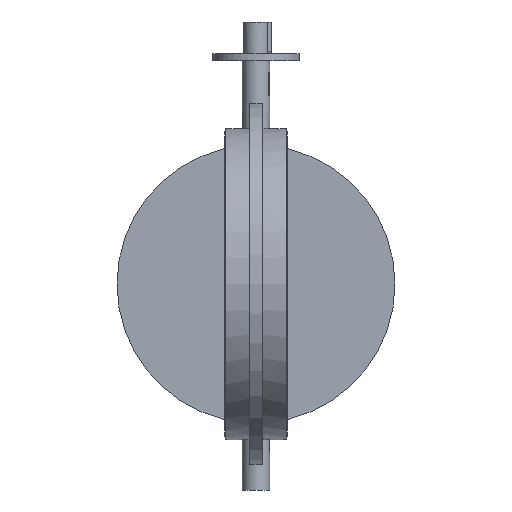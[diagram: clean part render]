
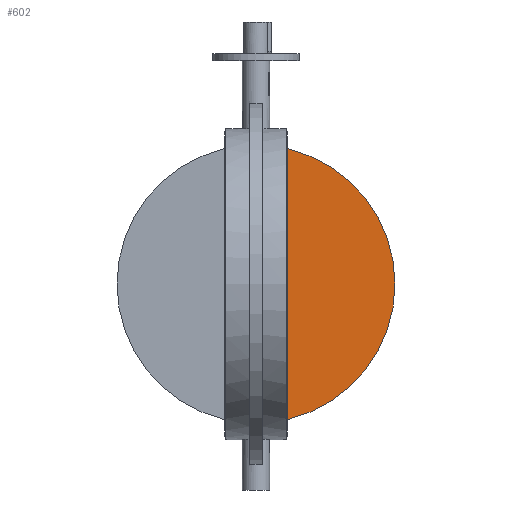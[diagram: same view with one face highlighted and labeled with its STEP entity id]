
A CAD part, front view. The second image highlights one B-rep face of the part: STEP entity #602.
In plain terms, the highlighted planar face has unit normal (0, -1, 0).
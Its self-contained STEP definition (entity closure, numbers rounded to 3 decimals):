
#602=ADVANCED_FACE('',(#1528),#1530,.T.);
#1528=FACE_BOUND('',#1529,.T.);
#1529=EDGE_LOOP('',(#2028,#2029));
#1530=PLANE('',#1531);
#1531=AXIS2_PLACEMENT_3D('',#1532,#1533,#1534);
#1532=CARTESIAN_POINT('',(0.,-10.,0.));
#1533=DIRECTION('',(0.,-1.,0.));
#1534=DIRECTION('',(0.,0.,1.));
#2028=ORIENTED_EDGE('',*,*,#2264,.T.);
#2029=ORIENTED_EDGE('',*,*,#2296,.T.);
#2264=EDGE_CURVE('',#2556,#2553,#2557,.T.);
#2296=EDGE_CURVE('',#2553,#2556,#2618,.T.);
#2553=VERTEX_POINT('',#3909);
#2556=VERTEX_POINT('',#3951);
#2557=LINE('',#3952,#3953);
#2618=CIRCLE('',#4206,482.5);
#3909=CARTESIAN_POINT('',(36.142,-10.,-481.144));
#3951=CARTESIAN_POINT('',(36.142,-10.,481.144));
#3952=CARTESIAN_POINT('',(36.142,-10.,481.144));
#3953=VECTOR('',#3954,1.);
#3954=DIRECTION('',(0.,0.,-1.));
#4206=AXIS2_PLACEMENT_3D('',#4207,#4208,#4209);
#4207=CARTESIAN_POINT('',(0.,-10.,0.));
#4208=DIRECTION('',(0.,-1.,0.));
#4209=DIRECTION('',(0.075,0.,-0.997));
